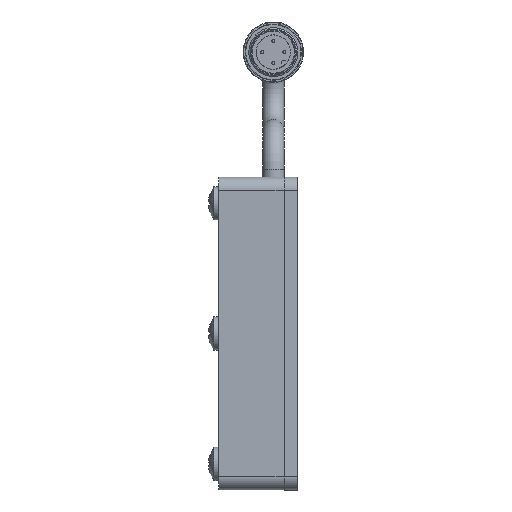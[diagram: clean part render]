
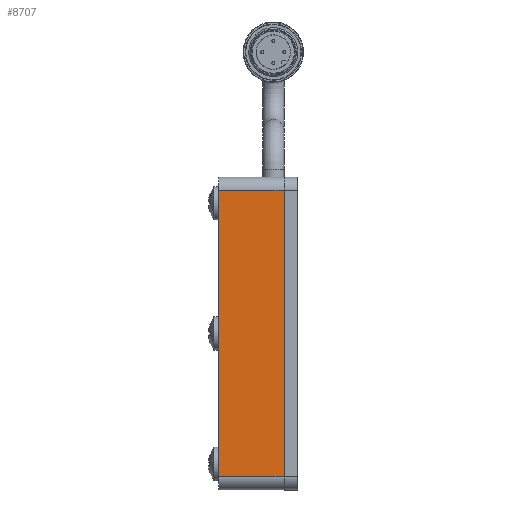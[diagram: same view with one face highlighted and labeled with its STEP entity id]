
A CAD part, left-side view. The second image highlights one B-rep face of the part: STEP entity #8707.
In plain terms, the highlighted planar face has unit normal (-1, 0, 0).
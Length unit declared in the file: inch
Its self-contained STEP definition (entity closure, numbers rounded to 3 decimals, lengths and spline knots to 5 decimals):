
#58 = EDGE_CURVE ( 'NONE', #3600, #1057, #1136, .T. ) ;
#531 = LINE ( 'NONE', #10759, #10632 ) ;
#639 = EDGE_LOOP ( 'NONE', ( #1667, #12630, #9767, #7279 ) ) ;
#1057 = VERTEX_POINT ( 'NONE', #12866 ) ;
#1089 = DIRECTION ( 'NONE',  ( 0., 0., -1. ) ) ;
#1136 = LINE ( 'NONE', #5126, #9326 ) ;
#1152 = DIRECTION ( 'NONE',  ( 1., 0., 0. ) ) ;
#1157 = CARTESIAN_POINT ( 'NONE',  ( -2.5, -0.3125, -1.375 ) ) ;
#1445 = CARTESIAN_POINT ( 'NONE',  ( -2.5, -0.3125, 1.375 ) ) ;
#1545 = DIRECTION ( 'NONE',  ( 0., -1., 0. ) ) ;
#1667 = ORIENTED_EDGE ( 'NONE', *, *, #5740, .F. ) ;
#2615 = CARTESIAN_POINT ( 'NONE',  ( -2.5, 0.3125, -1.375 ) ) ;
#3425 = EDGE_CURVE ( 'NONE', #9377, #3600, #7214, .T. ) ;
#3600 = VERTEX_POINT ( 'NONE', #1445 ) ;
#4030 = FACE_OUTER_BOUND ( 'NONE', #639, .T. ) ;
#4091 = PLANE ( 'NONE',  #4686 ) ;
#4199 = CARTESIAN_POINT ( 'NONE',  ( -2.5, -0.3125, 1.5 ) ) ;
#4523 = EDGE_CURVE ( 'NONE', #8780, #9377, #9776, .T. ) ;
#4686 = AXIS2_PLACEMENT_3D ( 'NONE', #10055, #1152, #1089 ) ;
#5126 = CARTESIAN_POINT ( 'NONE',  ( -2.5, 0.3125, 1.375 ) ) ;
#5735 = DIRECTION ( 'NONE',  ( 0., 0., 1. ) ) ;
#5740 = EDGE_CURVE ( 'NONE', #8780, #1057, #531, .T. ) ;
#7214 = LINE ( 'NONE', #4199, #9929 ) ;
#7279 = ORIENTED_EDGE ( 'NONE', *, *, #58, .T. ) ;
#8707 = ADVANCED_FACE ( 'NONE', ( #4030 ), #4091, .F. ) ;
#8780 = VERTEX_POINT ( 'NONE', #11803 ) ;
#9151 = DIRECTION ( 'NONE',  ( 0., 1., 0. ) ) ;
#9326 = VECTOR ( 'NONE', #9151, 39.37008 ) ;
#9377 = VERTEX_POINT ( 'NONE', #1157 ) ;
#9767 = ORIENTED_EDGE ( 'NONE', *, *, #3425, .T. ) ;
#9776 = LINE ( 'NONE', #2615, #12325 ) ;
#9929 = VECTOR ( 'NONE', #11364, 39.37008 ) ;
#10055 = CARTESIAN_POINT ( 'NONE',  ( -2.5, 0.3125, 1.5 ) ) ;
#10632 = VECTOR ( 'NONE', #5735, 39.37008 ) ;
#10759 = CARTESIAN_POINT ( 'NONE',  ( -2.5, 0.3125, 1.5 ) ) ;
#11364 = DIRECTION ( 'NONE',  ( 0., 0., 1. ) ) ;
#11803 = CARTESIAN_POINT ( 'NONE',  ( -2.5, 0.3125, -1.375 ) ) ;
#12325 = VECTOR ( 'NONE', #1545, 39.37008 ) ;
#12630 = ORIENTED_EDGE ( 'NONE', *, *, #4523, .T. ) ;
#12866 = CARTESIAN_POINT ( 'NONE',  ( -2.5, 0.3125, 1.375 ) ) ;
